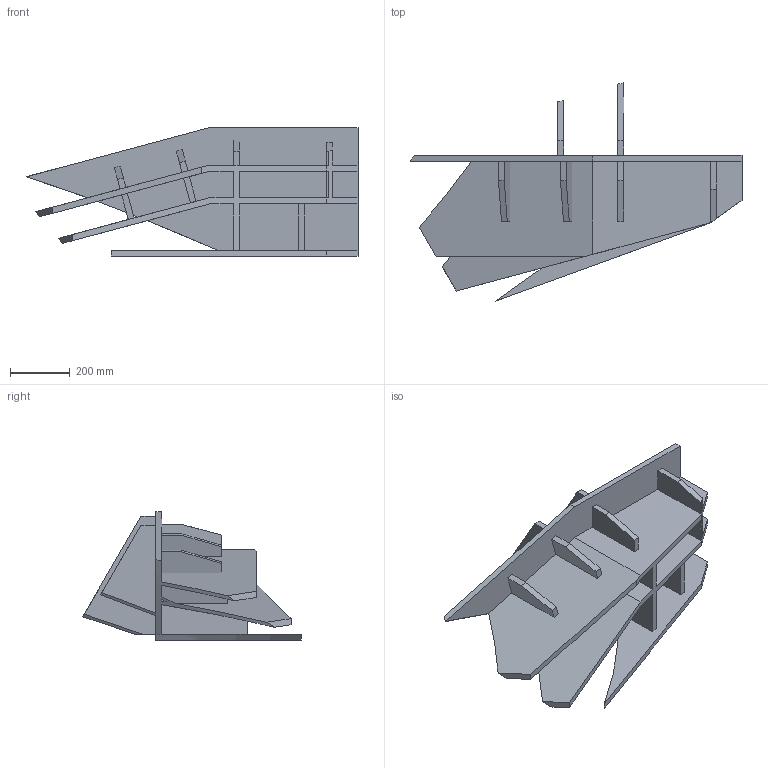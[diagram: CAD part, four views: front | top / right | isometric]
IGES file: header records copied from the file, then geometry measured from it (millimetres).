
Start section:  PTC IGES file: door_hinge_weldment_refl_af0.igs
Global section: file name: door_hinge_weldment_refl_af0.igs; native system: Pro/ENGINEER by Parametric Technology Corporation; preprocessor: 1999260; author: oshatz; organization: Unknown; date: 000922.101727; units: millimetre
Bounding box: 1112.54 x 731.66 x 430 mm (x, y, z)
Surface area: 2667168.7 mm2 (no closed solid volume)
Topology: 0 solids, 0 shells, 84 faces, 504 edges, 504 vertices
Faces by surface type: bspline 81, revolution 3
